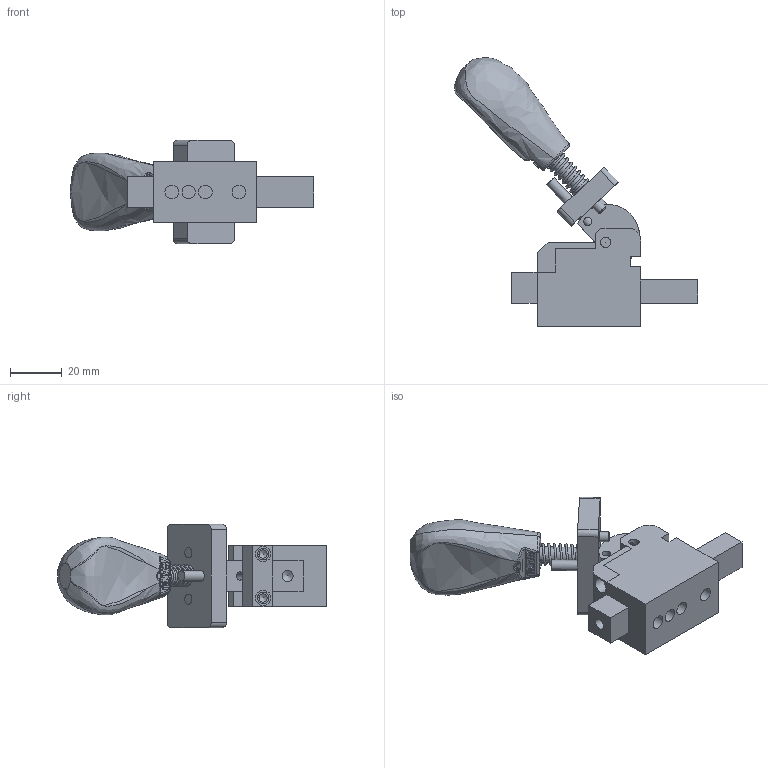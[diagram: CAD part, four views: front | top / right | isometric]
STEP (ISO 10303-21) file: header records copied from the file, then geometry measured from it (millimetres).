
FILE_DESCRIPTION(/* description */ (''),/* implementation_level */ '2;1');
FILE_NAME(/* name */ '\\192.168.1.150\pc03\Inventor\デュアルメカニズムクランプ最終\2017.10月　最新型\KCP-22ST\KCP-22ST-UNCLAMP.stp',/* time_stamp */ '2024-05-14T15:48:09+09:00',/* author */ ('Backup'),/* organization */ (''),/* preprocessor_version */ 'ST-DEVELOPER v17',/* originating_system */ 'Autodesk Inventor 2019',/* authorisation */ '');
FILE_SCHEMA (('AUTOMOTIVE_DESIGN { 1 0 10303 214 3 1 1 }'));
Length unit declared in the file: millimetre
Products named in the file (11): KCP-22ST-CLAMP; ブロックカバー; ロックブロック; 50-30_VER4_PG2__12; Φ8×40ｼｬﾌﾄ; カムφ25; スプリング; スライドバー　□12; φ4×25; φ4×25_1; ボディ
Assembly tree (11 placements, depth 2):
  KCP-22ST-CLAMP
    ブロックカバー
    ロックブロック
    50-30_VER4_PG2__12
    Φ8×40ｼｬﾌﾄ
    カムφ25
    スプリング
    スライドバー　□12
    φ4×25
    φ4×25_1  x2
    ボディ
Bounding box: 94.35 x 104.1 x 40 mm (x, y, z)
Volume: 59768.2 mm3; surface area: 26628.7 mm2
Topology: 11 solids, 11 shells, 250 faces, 671 edges, 448 vertices
Faces by surface type: plane 132, cylinder 80, bspline 25, cone 9, sphere 4
Full cylindrical faces by diameter (mm): 0.01 x3, 1.306 x1, 3 x2, 3.2 x7, 4 x8, 4.2 x1, 4.3 x1, 4.5 x2, 5.1 x1, 5.3 x3, 6 x5, 6.2 x1
Entity records: 19222 total; most frequent: CARTESIAN_POINT 12573, ORIENTED_EDGE 1320, DIRECTION 1275, EDGE_CURVE 660, VERTEX_POINT 445, AXIS2_PLACEMENT_3D 444, LINE 387, VECTOR 387
